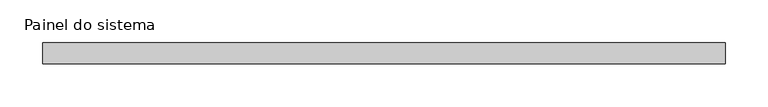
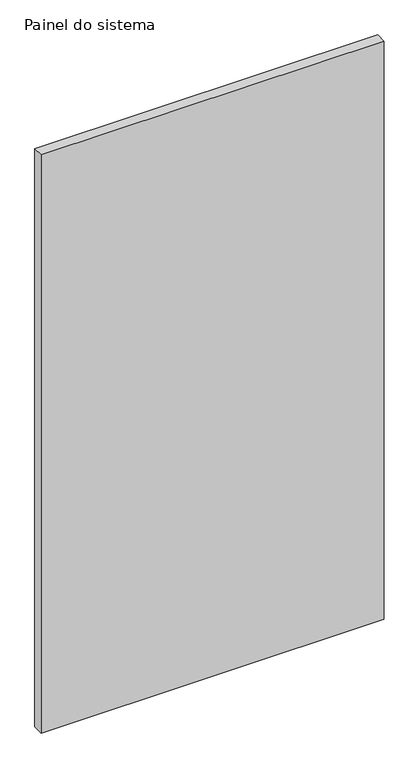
"""IFC4 building model written with IfcOpenShell, lengths in millimetres: plate geometry, Painel do sistema : Envidraçado."""

from ifc_helpers import new_model, si_unit, origin, origin_with_axes, place, context, project, spatial, polyline, outline, extrude, source, transform, mapped, element, save


def painel_do_sistema_5102818b(model_context):
    return source(origin(), model_context, "Body", "SweptSolid", [
        extrude(outline(polyline([(400.0, -49.5), (-400.0, -49.5), (-400.0, -24.5), (400.0, -24.5), (400.0, -49.5)])), origin_with_axes(), (0.0, 0.0, 1.0), 1425.0),
    ])


if __name__ == "__main__":
    model = new_model("IFC4")
    model_context = context("Model", 3, world=origin())
    ifc_project = project(units=[si_unit("LENGTHUNIT", "METRE", prefix="MILLI")], contexts=[model_context])
    site = spatial("IfcSite", under=ifc_project)
    building = spatial("IfcBuilding", under=site)
    placement = place(None, origin())
    painel_do_sistema_shape = painel_do_sistema_5102818b(model_context)
    element("IfcPlate", 1, ObjectType="Painel do sistema : Envidraçado", at=placement, inside=building, context=model_context, shape_type="MappedRepresentation", body=[
        mapped(painel_do_sistema_shape, transform((0.0, 0.0, 0.0), x_axis=(1.0, 0.0, 0.0), y_axis=(0.0, 1.0, 0.0), z_axis=(0.0, 0.0, 1.0))),
    ])
    save(model, "model.ifc")
